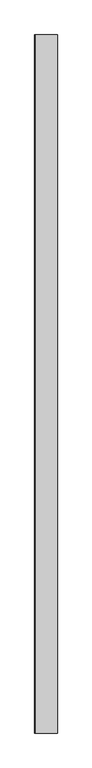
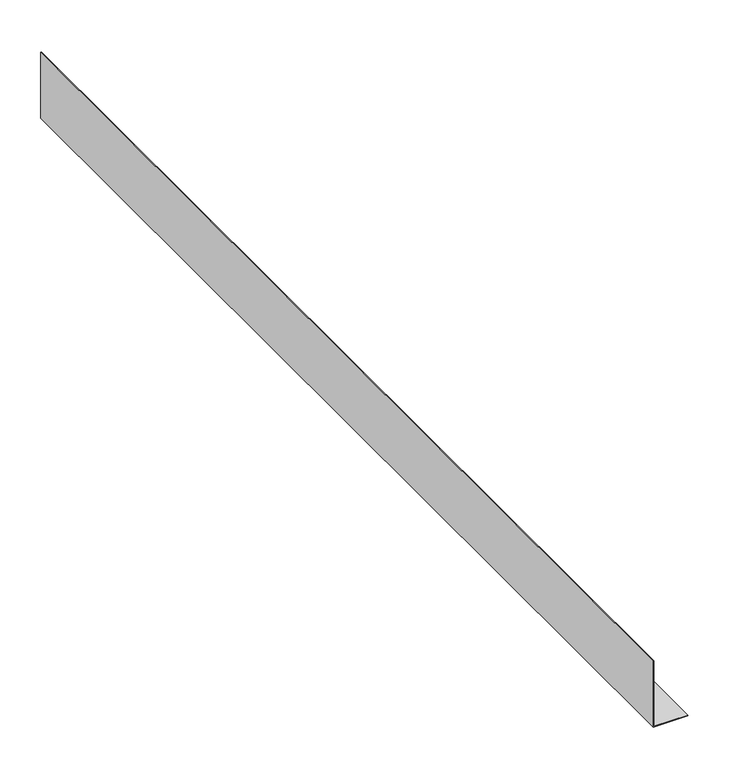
"""IFC4 building model written with IfcOpenShell, lengths in millimetres: proxy geometry, Amphibia Pressure Corner 270° : Amphibia Pressure Corner 270°."""

from ifc_helpers import new_model, si_unit, frame, origin, place, context, project, spatial, polyline, outline, extrude, source, transform, mapped, element, save


def generic_models_a0de8182(model_context):
    return source(origin(), model_context, "Body", "SweptSolid", [
        extrude(outline(polyline([(98.776202, 2270.1043175), (98.776202, 2269.1043175), (0.095003, 2269.1043175), (0.095003, 2317.8295895), (1.095003, 2317.8295895), (1.095003, 2270.1043175), (98.776202, 2270.1043175)])), frame((0.0, -2854.1299805, 0.0), z_axis=(0.0, 1.0, 0.0), x_axis=(0.0, 0.0, 1.0)), (0.0, 0.0, 1.0), 1500.0),
    ])


if __name__ == "__main__":
    model = new_model("IFC4")
    model_context = context("Model", 3, world=origin())
    ifc_project = project(units=[si_unit("LENGTHUNIT", "METRE", prefix="MILLI")], contexts=[model_context])
    site = spatial("IfcSite", under=ifc_project)
    building = spatial("IfcBuilding", under=site)
    placement = place(None, origin())
    generic_models_shape = generic_models_a0de8182(model_context)
    element("IfcBuildingElementProxy", 1, Name="Amphibia Pressure Corner 270° : Amphibia Pressure Corner 270°", ObjectType="Amphibia Pressure Corner 270° : Amphibia Pressure Corner 270°", at=placement, inside=building, context=model_context, shape_type="MappedRepresentation", body=[
        mapped(generic_models_shape, transform((0.0, 0.0, 0.0), x_axis=(1.0, 0.0, 0.0), y_axis=(0.0, 1.0, 0.0), z_axis=(0.0, 0.0, 1.0))),
    ])
    save(model, "model.ifc")
